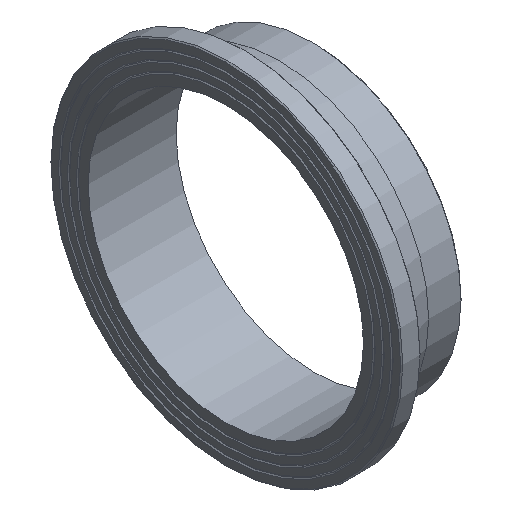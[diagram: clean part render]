
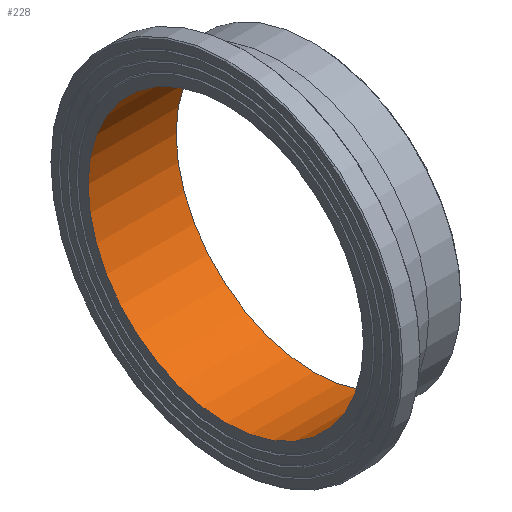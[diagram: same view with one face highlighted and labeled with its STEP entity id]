
A CAD part, isometric view. The second image highlights one B-rep face of the part: STEP entity #228.
In plain terms, the highlighted cylindrical face has radius 184.7 mm (diameter 369.4 mm), a full revolution.
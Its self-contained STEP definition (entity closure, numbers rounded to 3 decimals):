
#33=CYLINDRICAL_SURFACE('',#274,184.7);
#50=ORIENTED_EDGE('',*,*,#79,.F.);
#51=ORIENTED_EDGE('',*,*,#76,.T.);
#76=EDGE_CURVE('',#96,#96,#116,.T.);
#79=EDGE_CURVE('',#99,#99,#119,.T.);
#96=VERTEX_POINT('',#383);
#99=VERTEX_POINT('',#390);
#116=CIRCLE('',#257,184.7);
#119=CIRCLE('',#261,184.7);
#150=EDGE_LOOP('',(#50));
#151=EDGE_LOOP('',(#51));
#190=FACE_BOUND('',#150,.T.);
#191=FACE_BOUND('',#151,.T.);
#228=ADVANCED_FACE('',(#190,#191),#33,.F.);
#257=AXIS2_PLACEMENT_3D('',#382,#303,#304);
#261=AXIS2_PLACEMENT_3D('',#389,#311,#312);
#274=AXIS2_PLACEMENT_3D('',#410,#337,#338);
#303=DIRECTION('',(-1.,0.,0.));
#304=DIRECTION('',(0.,0.,1.));
#311=DIRECTION('',(-1.,0.,0.));
#312=DIRECTION('',(0.,0.,1.));
#337=DIRECTION('',(-1.,0.,0.));
#338=DIRECTION('',(0.,0.,1.));
#382=CARTESIAN_POINT('',(0.,0.,0.));
#383=CARTESIAN_POINT('',(0.,0.,184.7));
#389=CARTESIAN_POINT('',(118.,0.,0.));
#390=CARTESIAN_POINT('',(118.,0.,184.7));
#410=CARTESIAN_POINT('',(60.,0.,0.));
